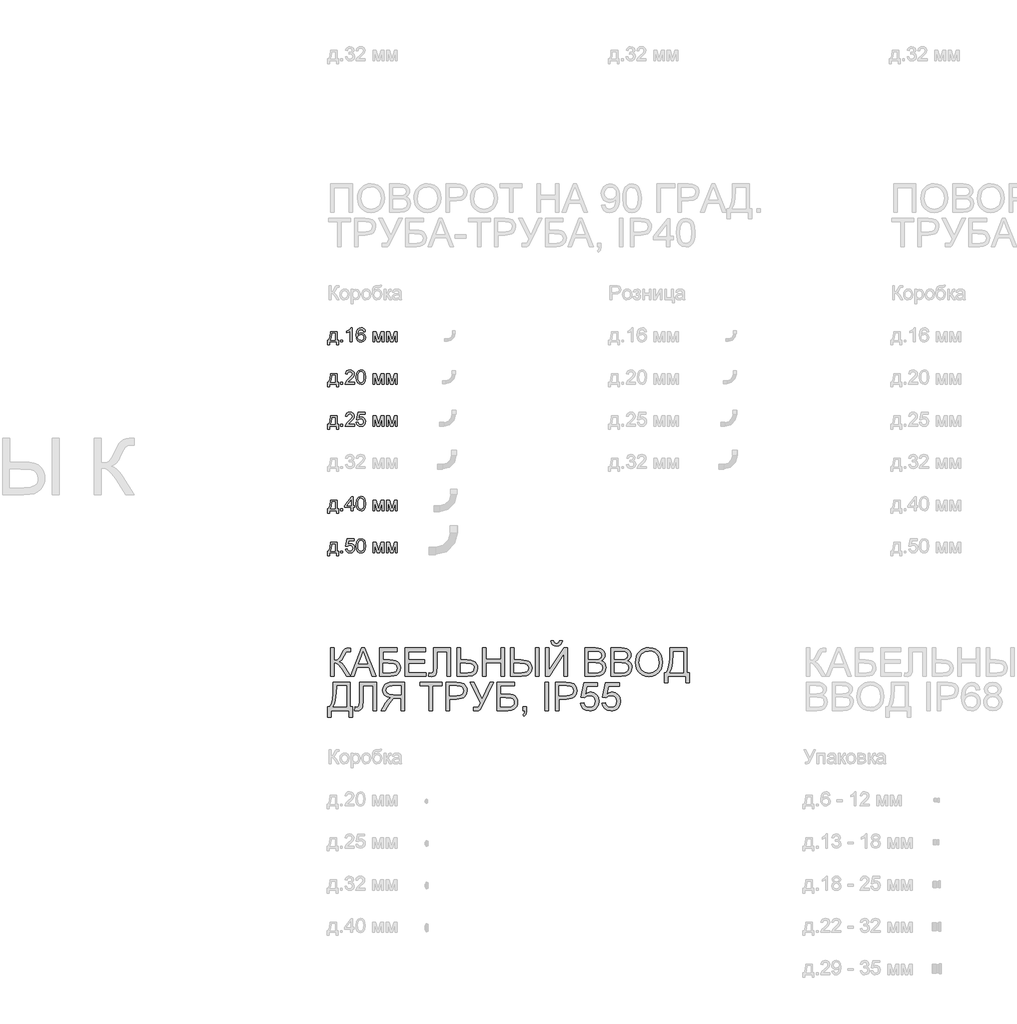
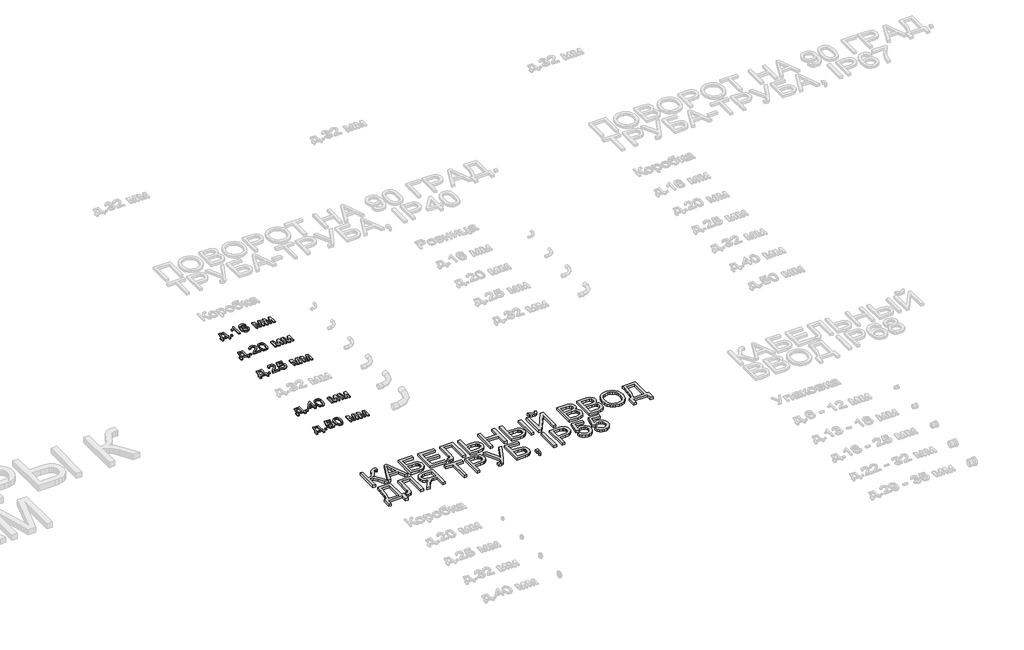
# One storey, part 62 of 98: 6 proxies.
"""IFC4 building model written with IfcOpenShell, lengths in millimetres."""

from ifc_helpers import new_model, si_unit, origin, origin_with_axes, place, context, project, spatial, polyline, outline, extrude, element, save

model = new_model("IFC4")

# Units and contexts
model_context = context("Model", 3, world=origin())
ifc_project = project(units=[si_unit("LENGTHUNIT", "METRE", prefix="MILLI")], contexts=[model_context])

# Site, building, storey
site = spatial("IfcSite", under=ifc_project)
building = spatial("IfcBuilding", under=site)
storey = spatial("IfcBuildingStorey", under=building, Name="Этаж 01", Elevation=0.0)

# Proxies
placement = place(None, origin())
element("IfcBuildingElementProxy", 1, Name="100", ObjectType="100", at=placement, inside=storey, context=model_context, shape_type="SweptSolid", body=[
    extrude(outline(polyline([(-26.9858135, -20985.7395637), (20.1030819, -20985.7395637), (20.1030819, -21046.9551277), (29.520861, -21046.9551277), (29.520861, -21079.9173545), (16.9638222, -21079.9173545), (16.9638222, -21059.5121665), (-34.8339627, -21059.5121665), (-34.8339627, -21079.9173545), (-47.3910015, -21079.9173545), (-47.3910015, -21046.9551277), (-39.5428522, -21046.9551277), (-29.8430303, -21023.0060098), (-26.9858135, -20985.7395637)]), holes=[polyline([(-15.9984045, -20998.2966025), (-18.9414605, -21026.905559), (-25.4161836, -21046.9551277), (7.5460431, -21046.9551277), (7.5460431, -20998.2966025), (-15.9984045, -20998.2966025)])]), origin_with_axes(), (0.0, 0.0, 1.0), 10.0),
    extrude(outline(polyline([(46.7867893, -21059.5121665), (46.7867893, -21046.9551277), (59.3438281, -21046.9551277), (59.3438281, -21059.5121665), (46.7867893, -21059.5121665)])), origin_with_axes(), (0.0, 0.0, 1.0), 10.0),
    extrude(outline(polyline([(126.8379114, -21059.5121665), (114.2808727, -21059.5121665), (114.2808727, -20981.2268779), (102.3860215, -20989.7004265), (89.1667951, -20996.0402596), (89.1667951, -20984.1699338), (107.5731576, -20972.4222355), (118.7445076, -20959.0558563), (126.8379114, -20959.0558563), (126.8379114, -21059.5121665)])), origin_with_axes(), (0.0, 0.0, 1.0), 10.0),
    extrude(outline(polyline([(221.0157022, -20985.7395637), (208.4586634, -20987.3091935), (203.700723, -20976.8368194), (191.1191587, -20971.6128951), (179.7883933, -20974.6540529), (171.2167428, -20986.0706575), (167.6482874, -21008.4501455), (178.7215355, -20998.4314925), (192.4435339, -20995.1573428), (204.0440795, -20997.3952916), (213.7806896, -21004.109138), (220.3841715, -21014.3669143), (222.5853321, -21027.2366527), (218.4405282, -21044.5638947), (207.0361864, -21056.8266279), (190.5795985, -21061.0817963), (176.3333682, -21058.2613677), (164.9872743, -21049.8000818), (157.5652551, -21034.8640728), (155.0912487, -21012.6194748), (157.8381009, -20987.6096305), (166.0786576, -20970.5092491), (177.3297153, -20961.9192045), (191.9039737, -20959.0558563), (202.9220394, -20960.8278213), (211.7450759, -20966.1437161), (217.9254935, -20974.5866079), (221.0157022, -20985.7395637)]), holes=[polyline([(167.6482874, -21027.040449), (170.5545552, -21037.9174933), (178.2800771, -21045.8146935), (189.5985798, -21048.5247575), (197.8851218, -21047.1206746), (204.3996988, -21042.9084257), (208.6211447, -21036.2865498), (210.0282933, -21027.6535857), (208.6395388, -21019.3670437), (204.4732752, -21013.0486705), (197.8483336, -21009.0479538), (189.083545, -21007.7143815), (173.8900186, -21013.0486705), (169.2087202, -21019.2137596), (167.6482874, -21027.040449)])]), origin_with_axes(), (0.0, 0.0, 1.0), 10.0),
    extrude(outline(polyline([(275.9527468, -20985.7395637), (297.5596827, -20985.7395637), (314.2124743, -21044.7968867), (332.1651157, -20985.7395637), (352.8646093, -20985.7395637), (352.8646093, -21059.5121665), (340.3075705, -21059.5121665), (340.3075705, -21000.111487), (322.2568273, -21059.5121665), (305.7757139, -21059.5121665), (288.5097856, -20997.2665329), (288.5097856, -21059.5121665), (275.9527468, -21059.5121665), (275.9527468, -20985.7395637)])), origin_with_axes(), (0.0, 0.0, 1.0), 10.0),
    extrude(outline(polyline([(371.7001674, -20985.7395637), (393.3071033, -20985.7395637), (409.9598949, -21044.7968867), (427.9125363, -20985.7395637), (448.6120299, -20985.7395637), (448.6120299, -21059.5121665), (436.0549911, -21059.5121665), (436.0549911, -21000.111487), (418.0042479, -21059.5121665), (401.5231345, -21059.5121665), (384.2572062, -20997.2665329), (384.2572062, -21059.5121665), (371.7001674, -21059.5121665), (371.7001674, -20985.7395637)])), origin_with_axes(), (0.0, 0.0, 1.0), 10.0),
])
element("IfcBuildingElementProxy", 2, Name="100", ObjectType="100", at=placement, inside=storey, context=model_context, shape_type="SweptSolid", body=[
    extrude(outline(polyline([(-26.9858135, -21285.7395637), (20.1030819, -21285.7395637), (20.1030819, -21346.9551277), (29.520861, -21346.9551277), (29.520861, -21379.9173545), (16.9638222, -21379.9173545), (16.9638222, -21359.5121665), (-34.8339627, -21359.5121665), (-34.8339627, -21379.9173545), (-47.3910015, -21379.9173545), (-47.3910015, -21346.9551277), (-39.5428522, -21346.9551277), (-29.8430303, -21323.0060098), (-26.9858135, -21285.7395637)]), holes=[polyline([(-15.9984045, -21298.2966025), (-18.9414605, -21326.905559), (-25.4161836, -21346.9551277), (7.5460431, -21346.9551277), (7.5460431, -21298.2966025), (-15.9984045, -21298.2966025)])]), origin_with_axes(), (0.0, 0.0, 1.0), 10.0),
    extrude(outline(polyline([(46.7867893, -21359.5121665), (46.7867893, -21346.9551277), (59.3438281, -21346.9551277), (59.3438281, -21359.5121665), (46.7867893, -21359.5121665)])), origin_with_axes(), (0.0, 0.0, 1.0), 10.0),
    extrude(outline(polyline([(144.1038398, -21346.9551277), (144.1038398, -21359.5121665), (78.1793862, -21359.5121665), (79.5282869, -21350.8546768), (87.1557069, -21337.5250859), (102.8765308, -21322.9692216), (124.5570431, -21302.0489988), (129.9771711, -21287.8242283), (124.8636114, -21276.3095219), (111.509495, -21271.6128951), (97.5912928, -21276.1991573), (92.3060548, -21288.8788234), (79.7490161, -21287.3091935), (82.7932396, -21275.1629563), (89.3752616, -21266.2908689), (99.1517256, -21260.8646095), (111.7792751, -21259.0558563), (124.4987951, -21261.0669445), (134.256865, -21267.1002093), (140.4648737, -21276.1133182), (142.5342099, -21287.0639389), (140.3023925, -21298.9710528), (132.8834389, -21311.2828369), (114.8940093, -21328.4874515), (100.4485097, -21340.5662437), (94.7831269, -21346.9551277), (144.1038398, -21346.9551277)])), origin_with_axes(), (0.0, 0.0, 1.0), 10.0),
    extrude(outline(polyline([(156.6608785, -21310.0933518), (160.3519612, -21281.1900897), (171.3148447, -21264.5250353), (189.6231053, -21259.0558563), (204.2893342, -21262.2932179), (214.4183518, -21271.6251578), (220.3044637, -21286.4875904), (222.5853321, -21310.0933518), (218.9310376, -21338.8739865), (208.0049423, -21355.5758291), (199.7735827, -21359.7053045), (189.6231053, -21361.0817963), (176.5755572, -21358.6905633), (166.6672688, -21351.5168644), (159.1624761, -21334.5268476), (156.6608785, -21310.0933518)]), holes=[polyline([(169.2179173, -21310.0688263), (170.6894453, -21329.8210238), (175.1040292, -21341.2529568), (181.6768542, -21346.7068073), (189.6231053, -21348.5247575), (197.5693564, -21346.700676), (204.1421814, -21341.2284313), (208.5567653, -21329.7903669), (210.0282933, -21310.0688263), (208.6058162, -21290.7611529), (204.3383851, -21279.2403151), (197.7778228, -21273.5197501), (189.4759525, -21271.6128951), (181.6155405, -21273.2928895), (175.3002329, -21278.3328729), (170.7384962, -21290.5710806), (169.2179173, -21310.0688263)])]), origin_with_axes(), (0.0, 0.0, 1.0), 10.0),
    extrude(outline(polyline([(275.9527468, -21285.7395637), (297.5596827, -21285.7395637), (314.2124743, -21344.7968867), (332.1651157, -21285.7395637), (352.8646093, -21285.7395637), (352.8646093, -21359.5121665), (340.3075705, -21359.5121665), (340.3075705, -21300.111487), (322.2568273, -21359.5121665), (305.7757139, -21359.5121665), (288.5097856, -21297.2665329), (288.5097856, -21359.5121665), (275.9527468, -21359.5121665), (275.9527468, -21285.7395637)])), origin_with_axes(), (0.0, 0.0, 1.0), 10.0),
    extrude(outline(polyline([(371.7001674, -21285.7395637), (393.3071033, -21285.7395637), (409.9598949, -21344.7968867), (427.9125363, -21285.7395637), (448.6120299, -21285.7395637), (448.6120299, -21359.5121665), (436.0549911, -21359.5121665), (436.0549911, -21300.111487), (418.0042479, -21359.5121665), (401.5231345, -21359.5121665), (384.2572062, -21297.2665329), (384.2572062, -21359.5121665), (371.7001674, -21359.5121665), (371.7001674, -21285.7395637)])), origin_with_axes(), (0.0, 0.0, 1.0), 10.0),
])
element("IfcBuildingElementProxy", 3, Name="100", ObjectType="100", at=placement, inside=storey, context=model_context, shape_type="SweptSolid", body=[
    extrude(outline(polyline([(-26.9858135, -21585.7395637), (20.1030819, -21585.7395637), (20.1030819, -21646.9551277), (29.520861, -21646.9551277), (29.520861, -21679.9173545), (16.9638222, -21679.9173545), (16.9638222, -21659.5121665), (-34.8339627, -21659.5121665), (-34.8339627, -21679.9173545), (-47.3910015, -21679.9173545), (-47.3910015, -21646.9551277), (-39.5428522, -21646.9551277), (-29.8430303, -21623.0060098), (-26.9858135, -21585.7395637)]), holes=[polyline([(-15.9984045, -21598.2966025), (-18.9414605, -21626.905559), (-25.4161836, -21646.9551277), (7.5460431, -21646.9551277), (7.5460431, -21598.2966025), (-15.9984045, -21598.2966025)])]), origin_with_axes(), (0.0, 0.0, 1.0), 10.0),
    extrude(outline(polyline([(46.7867893, -21659.5121665), (46.7867893, -21646.9551277), (59.3438281, -21646.9551277), (59.3438281, -21659.5121665), (46.7867893, -21659.5121665)])), origin_with_axes(), (0.0, 0.0, 1.0), 10.0),
    extrude(outline(polyline([(144.1038398, -21646.9551277), (144.1038398, -21659.5121665), (78.1793862, -21659.5121665), (79.5282869, -21650.8546768), (87.1557069, -21637.5250859), (102.8765308, -21622.9692216), (124.5570431, -21602.0489988), (129.9771711, -21587.8242283), (124.8636114, -21576.3095219), (111.509495, -21571.6128951), (97.5912928, -21576.1991573), (92.3060548, -21588.8788234), (79.7490161, -21587.3091935), (82.7932396, -21575.1629563), (89.3752616, -21566.2908689), (99.1517256, -21560.8646095), (111.7792751, -21559.0558563), (124.4987951, -21561.0669445), (134.256865, -21567.1002093), (140.4648737, -21576.1133182), (142.5342099, -21587.0639389), (140.3023925, -21598.9710528), (132.8834389, -21611.2828369), (114.8940093, -21628.4874515), (100.4485097, -21640.5662437), (94.7831269, -21646.9551277), (144.1038398, -21646.9551277)])), origin_with_axes(), (0.0, 0.0, 1.0), 10.0),
    extrude(outline(polyline([(156.6608785, -21632.8284591), (169.2179173, -21631.2588292), (175.5454876, -21644.1960127), (188.6666121, -21648.5247575), (197.6674583, -21647.019507), (204.4119615, -21642.5037555), (208.6242103, -21635.4986692), (210.0282933, -21626.5254142), (204.7675808, -21611.6139307), (198.1610333, -21607.5120464), (188.8628158, -21606.1447517), (177.8386187, -21608.3275182), (170.7875471, -21613.9929009), (158.2305084, -21612.4232711), (169.2179173, -21560.6254862), (217.8764425, -21560.6254862), (217.8764425, -21573.1825249), (179.3714604, -21573.1825249), (174.0003832, -21600.847251), (182.9705725, -21595.4025974), (192.3699575, -21593.5877129), (204.1023275, -21595.8379245), (213.8420033, -21602.5885591), (220.3994999, -21612.8769922), (222.5853321, -21625.7405993), (220.6171634, -21638.2976381), (214.7126574, -21649.0397923), (203.4064174, -21658.0712953), (188.6175612, -21661.0817963), (176.2843173, -21659.1473501), (166.4588023, -21653.3440117), (159.7234961, -21644.3462312), (156.6608785, -21632.8284591)])), origin_with_axes(), (0.0, 0.0, 1.0), 10.0),
    extrude(outline(polyline([(275.9527468, -21585.7395637), (297.5596827, -21585.7395637), (314.2124743, -21644.7968867), (332.1651157, -21585.7395637), (352.8646093, -21585.7395637), (352.8646093, -21659.5121665), (340.3075705, -21659.5121665), (340.3075705, -21600.111487), (322.2568273, -21659.5121665), (305.7757139, -21659.5121665), (288.5097856, -21597.2665329), (288.5097856, -21659.5121665), (275.9527468, -21659.5121665), (275.9527468, -21585.7395637)])), origin_with_axes(), (0.0, 0.0, 1.0), 10.0),
    extrude(outline(polyline([(371.7001674, -21585.7395637), (393.3071033, -21585.7395637), (409.9598949, -21644.7968867), (427.9125363, -21585.7395637), (448.6120299, -21585.7395637), (448.6120299, -21659.5121665), (436.0549911, -21659.5121665), (436.0549911, -21600.111487), (418.0042479, -21659.5121665), (401.5231345, -21659.5121665), (384.2572062, -21597.2665329), (384.2572062, -21659.5121665), (371.7001674, -21659.5121665), (371.7001674, -21585.7395637)])), origin_with_axes(), (0.0, 0.0, 1.0), 10.0),
])
element("IfcBuildingElementProxy", 4, Name="100", ObjectType="100", at=placement, inside=storey, context=model_context, shape_type="SweptSolid", body=[
    extrude(outline(polyline([(-26.9858135, -22185.7395637), (20.1030819, -22185.7395637), (20.1030819, -22246.9551277), (29.520861, -22246.9551277), (29.520861, -22279.9173545), (16.9638222, -22279.9173545), (16.9638222, -22259.5121665), (-34.8339627, -22259.5121665), (-34.8339627, -22279.9173545), (-47.3910015, -22279.9173545), (-47.3910015, -22246.9551277), (-39.5428522, -22246.9551277), (-29.8430303, -22223.0060098), (-26.9858135, -22185.7395637)]), holes=[polyline([(-15.9984045, -22198.2966025), (-18.9414605, -22226.905559), (-25.4161836, -22246.9551277), (7.5460431, -22246.9551277), (7.5460431, -22198.2966025), (-15.9984045, -22198.2966025)])]), origin_with_axes(), (0.0, 0.0, 1.0), 10.0),
    extrude(outline(polyline([(46.7867893, -22259.5121665), (46.7867893, -22246.9551277), (59.3438281, -22246.9551277), (59.3438281, -22259.5121665), (46.7867893, -22259.5121665)])), origin_with_axes(), (0.0, 0.0, 1.0), 10.0),
    extrude(outline(polyline([(120.5593921, -22259.5121665), (120.5593921, -22235.9677188), (75.0401265, -22235.9677188), (75.0401265, -22223.41068), (123.6986518, -22160.6254862), (133.1164308, -22160.6254862), (133.1164308, -22223.41068), (145.6734696, -22223.41068), (145.6734696, -22235.9677188), (133.1164308, -22235.9677188), (133.1164308, -22259.5121665), (120.5593921, -22259.5121665)]), holes=[polyline([(120.5593921, -22223.41068), (120.5593921, -22184.6113922), (90.4911703, -22223.41068), (120.5593921, -22223.41068)])]), origin_with_axes(), (0.0, 0.0, 1.0), 10.0),
    extrude(outline(polyline([(156.6608785, -22210.0933518), (160.3519612, -22181.1900897), (171.3148447, -22164.5250353), (189.6231053, -22159.0558563), (204.2893342, -22162.2932179), (214.4183518, -22171.6251578), (220.3044637, -22186.4875904), (222.5853321, -22210.0933518), (218.9310376, -22238.8739865), (208.0049423, -22255.5758291), (199.7735827, -22259.7053045), (189.6231053, -22261.0817963), (176.5755572, -22258.6905633), (166.6672688, -22251.5168644), (159.1624761, -22234.5268476), (156.6608785, -22210.0933518)]), holes=[polyline([(169.2179173, -22210.0688263), (170.6894453, -22229.8210238), (175.1040292, -22241.2529568), (181.6768542, -22246.7068073), (189.6231053, -22248.5247575), (197.5693564, -22246.700676), (204.1421814, -22241.2284313), (208.5567653, -22229.7903669), (210.0282933, -22210.0688263), (208.6058162, -22190.7611529), (204.3383851, -22179.2403151), (197.7778228, -22173.5197501), (189.4759525, -22171.6128951), (181.6155405, -22173.2928895), (175.3002329, -22178.3328729), (170.7384962, -22190.5710806), (169.2179173, -22210.0688263)])]), origin_with_axes(), (0.0, 0.0, 1.0), 10.0),
    extrude(outline(polyline([(275.9527468, -22185.7395637), (297.5596827, -22185.7395637), (314.2124743, -22244.7968867), (332.1651157, -22185.7395637), (352.8646093, -22185.7395637), (352.8646093, -22259.5121665), (340.3075705, -22259.5121665), (340.3075705, -22200.111487), (322.2568273, -22259.5121665), (305.7757139, -22259.5121665), (288.5097856, -22197.2665329), (288.5097856, -22259.5121665), (275.9527468, -22259.5121665), (275.9527468, -22185.7395637)])), origin_with_axes(), (0.0, 0.0, 1.0), 10.0),
    extrude(outline(polyline([(371.7001674, -22185.7395637), (393.3071033, -22185.7395637), (409.9598949, -22244.7968867), (427.9125363, -22185.7395637), (448.6120299, -22185.7395637), (448.6120299, -22259.5121665), (436.0549911, -22259.5121665), (436.0549911, -22200.111487), (418.0042479, -22259.5121665), (401.5231345, -22259.5121665), (384.2572062, -22197.2665329), (384.2572062, -22259.5121665), (371.7001674, -22259.5121665), (371.7001674, -22185.7395637)])), origin_with_axes(), (0.0, 0.0, 1.0), 10.0),
])
element("IfcBuildingElementProxy", 5, Name="100", ObjectType="100", at=placement, inside=storey, context=model_context, shape_type="SweptSolid", body=[
    extrude(outline(polyline([(-26.9858135, -22485.7395637), (20.1030819, -22485.7395637), (20.1030819, -22546.9551277), (29.520861, -22546.9551277), (29.520861, -22579.9173545), (16.9638222, -22579.9173545), (16.9638222, -22559.5121665), (-34.8339627, -22559.5121665), (-34.8339627, -22579.9173545), (-47.3910015, -22579.9173545), (-47.3910015, -22546.9551277), (-39.5428522, -22546.9551277), (-29.8430303, -22523.0060098), (-26.9858135, -22485.7395637)]), holes=[polyline([(-15.9984045, -22498.2966025), (-18.9414605, -22526.905559), (-25.4161836, -22546.9551277), (7.5460431, -22546.9551277), (7.5460431, -22498.2966025), (-15.9984045, -22498.2966025)])]), origin_with_axes(), (0.0, 0.0, 1.0), 10.0),
    extrude(outline(polyline([(46.7867893, -22559.5121665), (46.7867893, -22546.9551277), (59.3438281, -22546.9551277), (59.3438281, -22559.5121665), (46.7867893, -22559.5121665)])), origin_with_axes(), (0.0, 0.0, 1.0), 10.0),
    extrude(outline(polyline([(79.7490161, -22532.8284591), (92.3060548, -22531.2588292), (98.6336251, -22544.1960127), (111.7547496, -22548.5247575), (120.7555958, -22547.019507), (127.500099, -22542.5037555), (131.7123479, -22535.4986692), (133.1164308, -22526.5254142), (127.8557183, -22511.6139307), (121.2491708, -22507.5120464), (111.9509534, -22506.1447517), (100.9267563, -22508.3275182), (93.8756847, -22513.9929009), (81.3186459, -22512.4232711), (92.3060548, -22460.6254862), (140.9645801, -22460.6254862), (140.9645801, -22473.1825249), (102.4595979, -22473.1825249), (97.0885208, -22500.847251), (106.0587101, -22495.4025974), (115.4580951, -22493.5877129), (127.190465, -22495.8379245), (136.9301408, -22502.5885591), (143.4876374, -22512.8769922), (145.6734696, -22525.7405993), (143.7053009, -22538.2976381), (137.8007949, -22549.0397923), (126.4945549, -22558.0712953), (111.7056987, -22561.0817963), (99.3724548, -22559.1473501), (89.5469399, -22553.3440117), (82.8116337, -22544.3462312), (79.7490161, -22532.8284591)])), origin_with_axes(), (0.0, 0.0, 1.0), 10.0),
    extrude(outline(polyline([(156.6608785, -22510.0933518), (160.3519612, -22481.1900897), (171.3148447, -22464.5250353), (189.6231053, -22459.0558563), (204.2893342, -22462.2932179), (214.4183518, -22471.6251578), (220.3044637, -22486.4875904), (222.5853321, -22510.0933518), (218.9310376, -22538.8739865), (208.0049423, -22555.5758291), (199.7735827, -22559.7053045), (189.6231053, -22561.0817963), (176.5755572, -22558.6905633), (166.6672688, -22551.5168644), (159.1624761, -22534.5268476), (156.6608785, -22510.0933518)]), holes=[polyline([(169.2179173, -22510.0688263), (170.6894453, -22529.8210238), (175.1040292, -22541.2529568), (181.6768542, -22546.7068073), (189.6231053, -22548.5247575), (197.5693564, -22546.700676), (204.1421814, -22541.2284313), (208.5567653, -22529.7903669), (210.0282933, -22510.0688263), (208.6058162, -22490.7611529), (204.3383851, -22479.2403151), (197.7778228, -22473.5197501), (189.4759525, -22471.6128951), (181.6155405, -22473.2928895), (175.3002329, -22478.3328729), (170.7384962, -22490.5710806), (169.2179173, -22510.0688263)])]), origin_with_axes(), (0.0, 0.0, 1.0), 10.0),
    extrude(outline(polyline([(275.9527468, -22485.7395637), (297.5596827, -22485.7395637), (314.2124743, -22544.7968867), (332.1651157, -22485.7395637), (352.8646093, -22485.7395637), (352.8646093, -22559.5121665), (340.3075705, -22559.5121665), (340.3075705, -22500.111487), (322.2568273, -22559.5121665), (305.7757139, -22559.5121665), (288.5097856, -22497.2665329), (288.5097856, -22559.5121665), (275.9527468, -22559.5121665), (275.9527468, -22485.7395637)])), origin_with_axes(), (0.0, 0.0, 1.0), 10.0),
    extrude(outline(polyline([(371.7001674, -22485.7395637), (393.3071033, -22485.7395637), (409.9598949, -22544.7968867), (427.9125363, -22485.7395637), (448.6120299, -22485.7395637), (448.6120299, -22559.5121665), (436.0549911, -22559.5121665), (436.0549911, -22500.111487), (418.0042479, -22559.5121665), (401.5231345, -22559.5121665), (384.2572062, -22497.2665329), (384.2572062, -22559.5121665), (371.7001674, -22559.5121665), (371.7001674, -22485.7395637)])), origin_with_axes(), (0.0, 0.0, 1.0), 10.0),
])
element("IfcBuildingElementProxy", 6, Name="200", ObjectType="200", at=placement, inside=storey, context=model_context, shape_type="SweptSolid", body=[
    extrude(outline(polyline([(-25.4161836, -23236.6247283), (-0.3021061, -23236.6247283), (-0.3021061, -23324.5239997), (16.7001735, -23322.8623994), (27.7795529, -23317.8775983), (36.7374795, -23306.148294), (47.3754005, -23284.253184), (61.232289, -23256.171525), (76.9285874, -23242.2655856), (99.3693891, -23236.6247283), (115.8505025, -23236.9190339), (115.8505025, -23262.0331114), (110.3077471, -23261.8859586), (104.7649917, -23261.7388059), (93.262548, -23263.247122), (85.1446187, -23267.7720706), (70.2331351, -23293.6219121), (52.452172, -23325.1126109), (35.1126673, -23335.5114086), (54.5000485, -23346.8666995), (73.6176495, -23370.5337746), (115.8505025, -23437.5373486), (86.7142485, -23437.5373486), (51.0051695, -23380.9325723), (25.8665665, -23351.3793853), (14.2598896, -23345.3645147), (-0.3021061, -23343.3595578), (-0.3021061, -23437.5373486), (-25.4161836, -23437.5373486), (-25.4161836, -23236.6247283)])), origin_with_axes(), (0.0, 0.0, 1.0), 20.0),
    extrude(outline(polyline([(114.4280255, -23437.5373486), (194.6263004, -23236.6247283), (216.0125071, -23236.6247283), (296.210782, -23437.5373486), (269.6742274, -23437.5373486), (246.66934, -23374.7521548), (163.9204166, -23374.7521548), (140.9645801, -23437.5373486), (114.4280255, -23437.5373486)]), holes=[polyline([(173.1419919, -23349.6380772), (237.4968156, -23349.6380772), (219.3970214, -23300.243788), (205.3194038, -23261.7388059), (192.8114159, -23295.9273059), (173.1419919, -23349.6380772)])]), origin_with_axes(), (0.0, 0.0, 1.0), 20.0),
    extrude(outline(polyline([(323.0416422, -23236.6247283), (448.6120299, -23236.6247283), (448.6120299, -23261.7388059), (348.1557197, -23261.7388059), (348.1557197, -23321.38474), (395.1955642, -23321.38474), (418.5805964, -23322.6600643), (436.6436023, -23326.486037), (450.5127535, -23333.8559396), (461.3162215, -23345.7630535), (468.2691912, -23361.09147), (470.5868477, -23378.7252803), (468.9375101, -23393.5325306), (463.9894973, -23407.3464995), (455.7673347, -23419.4436858), (444.2955478, -23429.1005882), (426.6004238, -23435.4281585), (399.70825, -23437.5373486), (323.0416422, -23437.5373486), (323.0416422, -23236.6247283)]), holes=[polyline([(348.1557197, -23412.4232711), (401.9645929, -23412.4232711), (420.9840921, -23410.3508692), (434.5834631, -23404.1336635), (442.7504434, -23393.7716539), (445.4727702, -23379.2648406), (443.9154031, -23368.4613727), (439.2433018, -23359.5954166), (431.7936913, -23353.0225916), (421.903797, -23349.098517), (384.0610025, -23346.4988175), (348.1557197, -23346.4988175), (348.1557197, -23412.4232711)])]), origin_with_axes(), (0.0, 0.0, 1.0), 20.0),
    extrude(outline(polyline([(505.1187044, -23437.5373486), (505.1187044, -23236.6247283), (649.5246502, -23236.6247283), (649.5246502, -23261.7388059), (530.2327819, -23261.7388059), (530.2327819, -23321.38474), (643.2461308, -23321.38474), (643.2461308, -23346.4988175), (530.2327819, -23346.4988175), (530.2327819, -23412.4232711), (652.6639099, -23412.4232711), (652.6639099, -23437.5373486), (505.1187044, -23437.5373486)])), origin_with_axes(), (0.0, 0.0, 1.0), 20.0),
    extrude(outline(polyline([(706.0313247, -23236.6247283), (828.4624526, -23236.6247283), (828.4624526, -23437.5373486), (803.3483751, -23437.5373486), (803.3483751, -23261.7388059), (731.1454022, -23261.7388059), (731.1454022, -23364.2552552), (728.2268717, -23409.9952499), (723.7080545, -23422.9201707), (715.988664, -23432.6077299), (705.418188, -23438.6593887), (692.3461144, -23440.6766083), (671.499468, -23437.5373486), (674.6387277, -23412.4232711), (686.6562062, -23415.5625308), (695.148149, -23413.876405), (701.1998078, -23408.8180275), (704.8234454, -23397.5056562), (706.0313247, -23377.0575486), (706.0313247, -23236.6247283)])), origin_with_axes(), (0.0, 0.0, 1.0), 20.0),
    extrude(outline(polyline([(872.4120883, -23236.6247283), (897.5261659, -23236.6247283), (897.5261659, -23321.38474), (944.5660103, -23321.38474), (972.9481063, -23323.3529087), (992.2680424, -23329.2574147), (1004.9722339, -23338.5525664), (1013.5070962, -23350.6926723), (1018.3447445, -23364.4575903), (1019.9572939, -23378.6271785), (1016.0822702, -23400.6755727), (1004.4571991, -23419.8299619), (995.0394201, -23427.5769436), (982.2861776, -23433.1105019), (946.7733023, -23437.5373486), (872.4120883, -23437.5373486), (872.4120883, -23236.6247283)]), holes=[polyline([(897.5261659, -23412.4232711), (946.7242514, -23412.4232711), (971.4704469, -23409.9400676), (985.7687938, -23402.4904572), (992.5746107, -23391.5337051), (994.8432163, -23378.5290766), (993.2000101, -23367.9953888), (988.2703914, -23359.1539582), (980.6000518, -23352.5750018), (970.7346829, -23348.8287368), (933.5786014, -23346.4988175), (897.5261659, -23346.4988175), (897.5261659, -23412.4232711)])]), origin_with_axes(), (0.0, 0.0, 1.0), 20.0),
    extrude(outline(polyline([(1054.4891505, -23437.5373486), (1054.4891505, -23236.6247283), (1079.603228, -23236.6247283), (1079.603228, -23318.2454803), (1186.3380576, -23318.2454803), (1186.3380576, -23236.6247283), (1211.4521351, -23236.6247283), (1211.4521351, -23437.5373486), (1186.3380576, -23437.5373486), (1186.3380576, -23343.3595578), (1079.603228, -23343.3595578), (1079.603228, -23437.5373486), (1054.4891505, -23437.5373486)])), origin_with_axes(), (0.0, 0.0, 1.0), 20.0),
    extrude(outline(polyline([(1255.4017708, -23236.6247283), (1280.5158483, -23236.6247283), (1280.5158483, -23321.38474), (1328.7819661, -23321.38474), (1368.0595004, -23325.7747985), (1381.6190176, -23331.2623716), (1391.1257015, -23338.9449739), (1402.3461024, -23357.6824302), (1406.086236, -23378.7743313), (1402.1315046, -23400.8043314), (1390.2673102, -23419.9035383), (1380.6609916, -23427.6183303), (1367.6609616, -23433.128896), (1331.4797674, -23437.5373486), (1255.4017708, -23437.5373486), (1255.4017708, -23236.6247283)]), holes=[polyline([(1280.5158483, -23412.4232711), (1331.2345127, -23412.4232711), (1353.7918104, -23410.4305769), (1369.1754092, -23404.4524945), (1378.0229711, -23394.0843536), (1380.9721585, -23378.921484), (1379.1879308, -23367.9708633), (1373.8352478, -23358.9577544), (1365.6560047, -23352.3726667), (1355.3920971, -23348.7061095), (1317.6474044, -23346.4988175), (1280.5158483, -23346.4988175), (1280.5158483, -23412.4232711)])]), origin_with_axes(), (0.0, 0.0, 1.0), 20.0),
    extrude(outline(polyline([(1431.2003135, -23236.6247283), (1456.3143911, -23236.6247283), (1456.3143911, -23437.5373486), (1431.2003135, -23437.5373486), (1431.2003135, -23236.6247283)])), origin_with_axes(), (0.0, 0.0, 1.0), 20.0),
    extrude(outline(polyline([(1503.4032865, -23236.6247283), (1528.517364, -23236.6247283), (1528.517364, -23395.745954), (1633.6825637, -23236.6247283), (1660.3662711, -23236.6247283), (1660.3662711, -23437.5373486), (1635.2521935, -23437.5373486), (1635.2521935, -23278.8575814), (1530.3322485, -23437.5373486), (1503.4032865, -23437.5373486), (1503.4032865, -23236.6247283)])), origin_with_axes(), (0.0, 0.0, 1.0), 20.0),
    extrude(outline(polyline([(1603.8595966, -23186.3965732), (1622.6951548, -23186.3965732), (1618.6423215, -23202.4791478), (1610.505998, -23214.3310794), (1598.6540664, -23221.633537), (1583.4544086, -23224.0676895), (1566.9610325, -23221.6519311), (1554.1710018, -23214.4046558), (1545.427673, -23202.5711183), (1541.0744028, -23186.3965732), (1559.9099609, -23186.3965732), (1566.9732952, -23200.5477673), (1581.1980657, -23205.2321314), (1596.7962623, -23200.6949201), (1603.8595966, -23186.3965732)])), origin_with_axes(), (0.0, 0.0, 1.0), 20.0),
    extrude(outline(polyline([(1782.7973991, -23437.5373486), (1782.7973991, -23236.6247283), (1859.4640069, -23236.6247283), (1880.5497766, -23238.1023877), (1897.0124958, -23242.5353657), (1909.6308483, -23250.034027), (1919.1835174, -23260.7087363), (1925.198388, -23273.265775), (1927.2033449, -23286.411425), (1925.5172191, -23298.5086113), (1920.4588417, -23309.8822963), (1911.9914244, -23319.8335043), (1900.0781791, -23327.6632594), (1914.309081, -23335.0944757), (1924.8243747, -23346.4007157), (1931.3174919, -23360.8339526), (1933.4818643, -23377.6461598), (1927.5712269, -23404.6486982), (1912.9295235, -23423.8766639), (1891.077333, -23434.0792579), (1858.8753957, -23437.5373486), (1782.7973991, -23437.5373486)]), holes=[polyline([(1807.9114766, -23412.4232711), (1859.4149559, -23412.4232711), (1878.0543104, -23411.4422524), (1893.8241852, -23405.9730734), (1904.2720339, -23394.8139862), (1908.3677868, -23377.8914145), (1903.5607954, -23358.3691433), (1897.2638819, -23351.3119403), (1887.9871242, -23346.7195467), (1856.9624093, -23343.3595578), (1807.9114766, -23343.3595578), (1807.9114766, -23412.4232711)]), polyline([(1807.9114766, -23318.2454803), (1853.7740987, -23318.2454803), (1880.5559079, -23316.0872393), (1896.6691393, -23306.7920875), (1902.0892674, -23290.4336015), (1897.0370213, -23274.05059), (1882.5669962, -23264.3630308), (1850.2914825, -23261.7388059), (1807.9114766, -23261.7388059), (1807.9114766, -23318.2454803)])]), origin_with_axes(), (0.0, 0.0, 1.0), 20.0),
    extrude(outline(polyline([(1968.0137209, -23437.5373486), (1968.0137209, -23236.6247283), (2044.6803287, -23236.6247283), (2065.7660984, -23238.1023877), (2082.2288177, -23242.5353657), (2094.8471701, -23250.034027), (2104.3998393, -23260.7087363), (2110.4147099, -23273.265775), (2112.4196667, -23286.411425), (2110.7335409, -23298.5086113), (2105.6751635, -23309.8822963), (2097.2077462, -23319.8335043), (2085.294501, -23327.6632594), (2099.5254028, -23335.0944757), (2110.0406965, -23346.4007157), (2116.5338137, -23360.8339526), (2118.6981861, -23377.6461598), (2112.7875487, -23404.6486982), (2098.1458453, -23423.8766639), (2076.2936548, -23434.0792579), (2044.0917175, -23437.5373486), (1968.0137209, -23437.5373486)]), holes=[polyline([(1993.1277984, -23412.4232711), (2044.6312778, -23412.4232711), (2063.2706322, -23411.4422524), (2079.0405071, -23405.9730734), (2089.4883557, -23394.8139862), (2093.5841086, -23377.8914145), (2088.7771172, -23358.3691433), (2082.4802037, -23351.3119403), (2073.2034461, -23346.7195467), (2042.1787311, -23343.3595578), (1993.1277984, -23343.3595578), (1993.1277984, -23412.4232711)]), polyline([(1993.1277984, -23318.2454803), (2038.9904205, -23318.2454803), (2065.7722298, -23316.0872393), (2081.8854611, -23306.7920875), (2087.3055892, -23290.4336015), (2082.2533431, -23274.05059), (2067.783318, -23264.3630308), (2035.5078043, -23261.7388059), (1993.1277984, -23261.7388059), (1993.1277984, -23318.2454803)])]), origin_with_axes(), (0.0, 0.0, 1.0), 20.0),
    extrude(outline(polyline([(2143.8122637, -23339.7297888), (2145.4861267, -23316.1638814), (2150.507716, -23295.3019065), (2158.8770314, -23277.1438644), (2170.5940729, -23261.6897549), (2184.9567991, -23249.3503797), (2201.2631686, -23240.5365402), (2219.5131812, -23235.2482365), (2239.7068371, -23233.4854686), (2266.0594507, -23236.7964066), (2289.6897375, -23246.7292204), (2309.3101106, -23262.5849344), (2323.6329829, -23283.6645728), (2332.3885744, -23308.9503286), (2335.3071049, -23337.424395), (2332.2352902, -23366.2786061), (2323.0198463, -23391.9199812), (2308.1696764, -23413.0364077), (2288.193684, -23428.3157733), (2264.7657323, -23437.5863995), (2239.5596843, -23440.6766083), (2212.8024005, -23437.2614371), (2189.0372236, -23427.0159236), (2169.4659015, -23410.865904), (2155.2901819, -23389.7372147), (2146.6817432, -23365.4263462), (2143.8122637, -23339.7297888)]), holes=[polyline([(2168.9263412, -23339.9750435), (2173.9479304, -23371.4044286), (2189.0126981, -23395.3535465), (2211.6558349, -23410.5102847), (2239.4125315, -23415.5625308), (2267.5738982, -23410.4612338), (2290.2538232, -23395.1573428), (2298.977225, -23383.8848253), (2305.2082263, -23370.4724609), (2310.1930274, -23337.2281913), (2308.0593118, -23314.995856), (2301.6581651, -23295.7801531), (2291.1551341, -23280.0654606), (2276.7157658, -23268.3361563), (2259.2965533, -23261.0336987), (2239.8539899, -23258.5995462), (2212.8391887, -23263.2900416), (2189.8710895, -23277.3615279), (2180.7077621, -23288.3106158), (2174.1625283, -23302.3958977), (2168.9263412, -23339.9750435)])]), origin_with_axes(), (0.0, 0.0, 1.0), 20.0),
    extrude(outline(polyline([(2388.6745197, -23236.6247283), (2507.966388, -23236.6247283), (2507.966388, -23412.4232711), (2526.8019461, -23412.4232711), (2526.8019461, -23484.626244), (2501.6878686, -23484.626244), (2501.6878686, -23437.5373486), (2372.9782212, -23437.5373486), (2372.9782212, -23484.626244), (2347.8641437, -23484.626244), (2347.8641437, -23412.4232711), (2363.5604421, -23412.4232711), (2374.547851, -23389.6421785), (2382.3960003, -23357.5965911), (2387.1048898, -23316.2865087), (2388.6745197, -23265.7119314), (2388.6745197, -23236.6247283)]), holes=[polyline([(2482.8523104, -23261.7388059), (2413.7885972, -23261.7388059), (2413.7885972, -23271.843298), (2408.6873002, -23340.6617566), (2401.1334566, -23380.4298002), (2388.6745197, -23412.4232711), (2482.8523104, -23412.4232711), (2482.8523104, -23261.7388059)])]), origin_with_axes(), (0.0, 0.0, 1.0), 20.0),
    extrude(outline(polyline([(-6.5806255, -23480.574364), (112.7112428, -23480.574364), (112.7112428, -23656.3729068), (131.546801, -23656.3729068), (131.546801, -23728.5758797), (106.4327234, -23728.5758797), (106.4327234, -23681.4869843), (-22.2769239, -23681.4869843), (-22.2769239, -23728.5758797), (-47.3910015, -23728.5758797), (-47.3910015, -23656.3729068), (-31.694703, -23656.3729068), (-20.7072941, -23633.5918142), (-12.8591449, -23601.5462268), (-8.1502553, -23560.2361444), (-6.5806255, -23509.6615671), (-6.5806255, -23480.574364)]), holes=[polyline([(87.5971653, -23505.6884415), (18.5334521, -23505.6884415), (18.5334521, -23515.7929337), (13.4321551, -23584.6113922), (5.8783114, -23624.3794359), (-6.5806255, -23656.3729068), (87.5971653, -23656.3729068), (87.5971653, -23505.6884415)])]), origin_with_axes(), (0.0, 0.0, 1.0), 20.0),
    extrude(outline(polyline([(178.6356964, -23480.574364), (301.0668244, -23480.574364), (301.0668244, -23681.4869843), (275.9527468, -23681.4869843), (275.9527468, -23505.6884415), (203.7497739, -23505.6884415), (203.7497739, -23608.2048909), (200.8312434, -23653.9448856), (196.3124262, -23666.8698064), (188.5930357, -23676.5573656), (178.0225597, -23682.6090244), (164.9504861, -23684.626244), (144.1038398, -23681.4869843), (147.2430994, -23656.3729068), (159.260578, -23659.5121665), (167.7525207, -23657.8260406), (173.8041795, -23652.7676632), (177.4278171, -23641.4552919), (178.6356964, -23621.0071843), (178.6356964, -23480.574364)])), origin_with_axes(), (0.0, 0.0, 1.0), 20.0),
    extrude(outline(polyline([(501.9794447, -23681.4869843), (476.8653671, -23681.4869843), (476.8653671, -23593.5877129), (446.5518907, -23593.5877129), (431.9837637, -23594.4706297), (420.0398616, -23599.2530956), (406.7715843, -23612.2761183), (387.8869752, -23639.8427424), (361.7428281, -23681.4869843), (332.5575231, -23681.4869843), (366.0593102, -23627.040449), (386.4154472, -23601.1906075), (400.6892687, -23590.4484532), (375.9492045, -23583.7897891), (358.6280939, -23571.7600479), (348.4193685, -23555.3525109), (345.0164601, -23535.5604596), (347.0704679, -23519.6495633), (353.2324913, -23505.1734067), (362.8342114, -23493.4992848), (375.2073091, -23485.9944921), (392.1360123, -23481.929396), (415.4045485, -23480.574364), (501.9794447, -23480.574364), (501.9794447, -23681.4869843)]), holes=[polyline([(476.8653671, -23568.4736354), (476.8653671, -23505.6884415), (414.3254279, -23505.6884415), (394.4536688, -23507.8589453), (380.7500645, -23514.3704566), (372.7854193, -23524.2419568), (370.1305376, -23536.4924273), (375.6978185, -23553.5376264), (382.5526863, -23560.2943924), (391.9827281, -23564.9174428), (420.6529983, -23568.4736354), (476.8653671, -23568.4736354)])]), origin_with_axes(), (0.0, 0.0, 1.0), 20.0),
    extrude(outline(polyline([(674.6387277, -23681.4869843), (674.6387277, -23505.6884415), (608.7142742, -23505.6884415), (608.7142742, -23480.574364), (765.6772588, -23480.574364), (765.6772588, -23505.6884415), (699.7528053, -23505.6884415), (699.7528053, -23681.4869843), (674.6387277, -23681.4869843)])), origin_with_axes(), (0.0, 0.0, 1.0), 20.0),
    extrude(outline(polyline([(793.930596, -23681.4869843), (793.930596, -23480.574364), (868.3899119, -23480.574364), (898.4090827, -23482.4873504), (922.8119217, -23491.880604), (931.6840091, -23500.2069998), (938.6308475, -23511.3047733), (943.1190078, -23524.395241), (944.6150613, -23538.6997192), (940.5744907, -23562.379057), (928.4527789, -23582.1097947), (918.7452928, -23589.8782361), (905.7851167, -23595.4271229), (870.1066945, -23599.8662323), (819.0446736, -23599.8662323), (819.0446736, -23681.4869843), (793.930596, -23681.4869843)]), holes=[polyline([(819.0446736, -23574.7521548), (871.5782225, -23574.7521548), (893.8473459, -23572.4467609), (908.5626257, -23565.5305794), (916.7663942, -23554.4328059), (919.5009837, -23539.582636), (917.8884343, -23528.3009215), (913.0507861, -23518.7850406), (905.5889129, -23511.6236044), (896.1036888, -23507.4052242), (870.9896113, -23505.6884415), (819.0446736, -23505.6884415), (819.0446736, -23574.7521548)])]), origin_with_axes(), (0.0, 0.0, 1.0), 20.0),
    extrude(outline(polyline([(965.0202493, -23480.574364), (992.8321281, -23480.574364), (1052.9195206, -23599.5719267), (1106.9736485, -23480.574364), (1134.5402726, -23480.574364), (1058.2660723, -23637.0958902), (1037.5175278, -23675.5518214), (1027.670553, -23682.3576384), (1014.3164366, -23684.626244), (991.7039566, -23681.4869843), (991.7039566, -23659.5121665), (1011.4714825, -23659.5121665), (1026.1377114, -23653.9203601), (1039.7248197, -23628.4629261), (965.0202493, -23480.574364)])), origin_with_axes(), (0.0, 0.0, 1.0), 20.0),
    extrude(outline(polyline([(1158.0847203, -23480.574364), (1283.655108, -23480.574364), (1283.655108, -23505.6884415), (1183.1987979, -23505.6884415), (1183.1987979, -23565.3343757), (1230.2386423, -23565.3343757), (1253.6236745, -23566.6096999), (1271.6866804, -23570.4356727), (1285.5558317, -23577.8055753), (1296.3592996, -23589.7126892), (1303.3122693, -23605.0411057), (1305.6299259, -23622.674916), (1303.9805882, -23637.4821663), (1299.0325754, -23651.2961352), (1290.8104128, -23663.3933215), (1279.3386259, -23673.0502239), (1261.643502, -23679.3777942), (1234.7513281, -23681.4869843), (1158.0847203, -23681.4869843), (1158.0847203, -23480.574364)]), holes=[polyline([(1183.1987979, -23656.3729068), (1237.007671, -23656.3729068), (1256.0271702, -23654.3005049), (1269.6265413, -23648.0832991), (1277.7935216, -23637.7212896), (1280.5158483, -23623.2144763), (1278.9584812, -23612.4110083), (1274.2863799, -23603.5450523), (1266.8367695, -23596.9722273), (1256.9468752, -23593.0481527), (1219.1040806, -23590.4484532), (1183.1987979, -23590.4484532), (1183.1987979, -23656.3729068)])]), origin_with_axes(), (0.0, 0.0, 1.0), 20.0),
    extrude(outline(polyline([(1343.3010422, -23681.4869843), (1343.3010422, -23656.3729068), (1368.4151197, -23656.3729068), (1368.4151197, -23681.4869843), (1363.9024339, -23707.1651476), (1358.0653729, -23715.8410313), (1349.5795615, -23722.2973603), (1343.3010422, -23712.8795812), (1352.5226175, -23702.0393251), (1355.80903, -23681.4869843), (1343.3010422, -23681.4869843)])), origin_with_axes(), (0.0, 0.0, 1.0), 20.0),
    extrude(outline(polyline([(1500.2640268, -23681.4869843), (1500.2640268, -23480.574364), (1525.3781043, -23480.574364), (1525.3781043, -23681.4869843), (1500.2640268, -23681.4869843)])), origin_with_axes(), (0.0, 0.0, 1.0), 20.0),
    extrude(outline(polyline([(1575.6062594, -23681.4869843), (1575.6062594, -23480.574364), (1650.0655752, -23480.574364), (1680.084746, -23482.4873504), (1704.487585, -23491.880604), (1713.3596725, -23500.2069998), (1720.3065108, -23511.3047733), (1724.7946712, -23524.395241), (1726.2907246, -23538.6997192), (1722.250154, -23562.379057), (1710.1284423, -23582.1097947), (1700.4209561, -23589.8782361), (1687.46078, -23595.4271229), (1651.7823579, -23599.8662323), (1600.7203369, -23599.8662323), (1600.7203369, -23681.4869843), (1575.6062594, -23681.4869843)]), holes=[polyline([(1600.7203369, -23574.7521548), (1653.2538858, -23574.7521548), (1675.5230093, -23572.4467609), (1690.2382891, -23565.5305794), (1698.4420576, -23554.4328059), (1701.1766471, -23539.582636), (1699.5640977, -23528.3009215), (1694.7264494, -23518.7850406), (1687.2645763, -23511.6236044), (1677.7793522, -23507.4052242), (1652.6652746, -23505.6884415), (1600.7203369, -23505.6884415), (1600.7203369, -23574.7521548)])]), origin_with_axes(), (0.0, 0.0, 1.0), 20.0),
    extrude(outline(polyline([(1751.4048021, -23628.1195695), (1776.5188797, -23624.9803098), (1781.1296674, -23640.0573403), (1789.1740203, -23650.8546768), (1800.6151504, -23657.3477941), (1815.4162693, -23659.5121665), (1833.4179616, -23656.5016655), (1846.9069681, -23647.4701625), (1855.3314658, -23633.4599898), (1858.1396317, -23615.5134798), (1855.5092754, -23598.6154335), (1847.6182066, -23585.6905128), (1834.4051116, -23577.4867443), (1815.8086768, -23574.7521548), (1793.7602825, -23579.1176878), (1779.6581394, -23590.4484532), (1754.5440618, -23587.3091935), (1776.5188797, -23483.7136237), (1873.8359301, -23483.7136237), (1873.8359301, -23508.8277012), (1796.8259658, -23508.8277012), (1786.0838116, -23564.1571533), (1804.0241902, -23553.2678463), (1822.8229601, -23549.6380772), (1846.2877001, -23554.1385003), (1865.7670517, -23567.6397695), (1878.8820448, -23588.2166358), (1883.2537092, -23613.94385), (1879.3173719, -23639.0579275), (1867.5083598, -23660.542236), (1857.0727739, -23671.0789895), (1844.8958799, -23678.605242), (1830.9776777, -23683.1209935), (1815.3181674, -23684.626244), (1790.6516797, -23680.7573517), (1771.0006498, -23669.1506747), (1757.5300374, -23651.1551138), (1751.4048021, -23628.1195695)])), origin_with_axes(), (0.0, 0.0, 1.0), 20.0),
    extrude(outline(polyline([(1905.2285271, -23628.1195695), (1930.3426046, -23624.9803098), (1934.9533923, -23640.0573403), (1942.9977452, -23650.8546768), (1954.4388753, -23657.3477941), (1969.2399942, -23659.5121665), (1987.2416865, -23656.5016655), (2000.730693, -23647.4701625), (2009.1551907, -23633.4599898), (2011.9633566, -23615.5134798), (2009.3330003, -23598.6154335), (2001.4419315, -23585.6905128), (1988.2288365, -23577.4867443), (1969.6324017, -23574.7521548), (1947.5840074, -23579.1176878), (1933.4818643, -23590.4484532), (1908.3677868, -23587.3091935), (1930.3426046, -23483.7136237), (2027.6596551, -23483.7136237), (2027.6596551, -23508.8277012), (1950.6496907, -23508.8277012), (1939.9075365, -23564.1571533), (1957.8479151, -23553.2678463), (1976.6466851, -23549.6380772), (2000.111425, -23554.1385003), (2019.5907766, -23567.6397695), (2032.7057698, -23588.2166358), (2037.0774341, -23613.94385), (2033.1410968, -23639.0579275), (2021.3320847, -23660.542236), (2010.8964988, -23671.0789895), (1998.7196048, -23678.605242), (1984.8014026, -23683.1209935), (1969.1418924, -23684.626244), (1944.4754046, -23680.7573517), (1924.8243747, -23669.1506747), (1911.3537623, -23651.1551138), (1905.2285271, -23628.1195695)])), origin_with_axes(), (0.0, 0.0, 1.0), 20.0),
])

save(model, "model.ifc")
